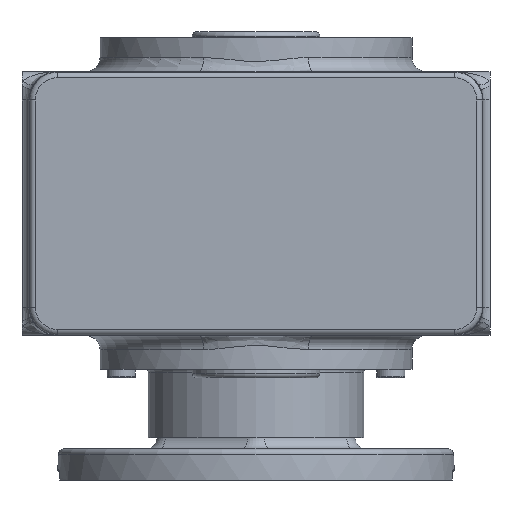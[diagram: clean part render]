
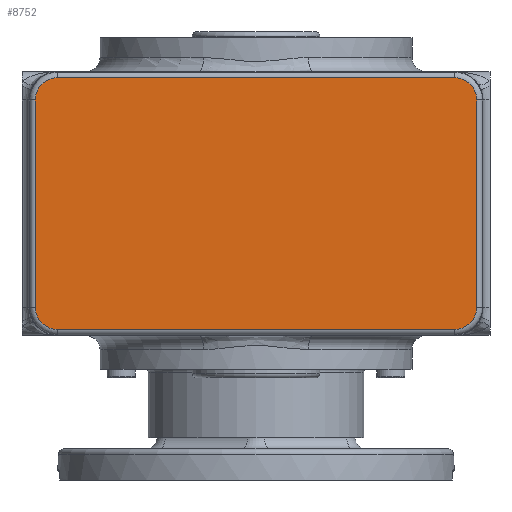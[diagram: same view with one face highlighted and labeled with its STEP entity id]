
A CAD part, front view. The second image highlights one B-rep face of the part: STEP entity #8752.
In plain terms, the highlighted planar face has unit normal (0, -1, 0).
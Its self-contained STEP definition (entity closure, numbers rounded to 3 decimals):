
#8752 = ADVANCED_FACE ( 'NONE', ( #22198 ), #22195, .T. ) ;
#8753 = EDGE_LOOP ( 'NONE', ( #8873, #8791, #8797, #8802, #8808, #8846, #8853, #8857 ) ) ;
#8755 = VERTEX_POINT ( 'NONE', #22260 ) ;
#8789 = VERTEX_POINT ( 'NONE', #22329 ) ;
#8791 = ORIENTED_EDGE ( 'NONE', *, *, #8794, .T. ) ;
#8794 = EDGE_CURVE ( 'NONE', #8789, #8795, #22347, .T. ) ;
#8795 = VERTEX_POINT ( 'NONE', #22342 ) ;
#8797 = ORIENTED_EDGE ( 'NONE', *, *, #8799, .T. ) ;
#8799 = EDGE_CURVE ( 'NONE', #8795, #8800, #22336, .T. ) ;
#8800 = VERTEX_POINT ( 'NONE', #22332 ) ;
#8802 = ORIENTED_EDGE ( 'NONE', *, *, #8805, .T. ) ;
#8805 = EDGE_CURVE ( 'NONE', #8800, #8806, #22434, .T. ) ;
#8806 = VERTEX_POINT ( 'NONE', #22429 ) ;
#8808 = ORIENTED_EDGE ( 'NONE', *, *, #8811, .T. ) ;
#8811 = EDGE_CURVE ( 'NONE', #8806, #8812, #22426, .T. ) ;
#8812 = VERTEX_POINT ( 'NONE', #22416 ) ;
#8846 = ORIENTED_EDGE ( 'NONE', *, *, #8848, .T. ) ;
#8848 = EDGE_CURVE ( 'NONE', #8812, #8850, #22479, .T. ) ;
#8850 = VERTEX_POINT ( 'NONE', #22473 ) ;
#8853 = ORIENTED_EDGE ( 'NONE', *, *, #8854, .T. ) ;
#8854 = EDGE_CURVE ( 'NONE', #8850, #8855, #22539, .T. ) ;
#8855 = VERTEX_POINT ( 'NONE', #22535 ) ;
#8857 = ORIENTED_EDGE ( 'NONE', *, *, #8860, .T. ) ;
#8860 = EDGE_CURVE ( 'NONE', #8855, #8755, #22559, .T. ) ;
#8873 = ORIENTED_EDGE ( 'NONE', *, *, #8875, .T. ) ;
#8875 = EDGE_CURVE ( 'NONE', #8755, #8789, #22593, .T. ) ;
#20690 = DIRECTION ( 'NONE',  ( 0., 0., -1. ) ) ;
#20691 = DIRECTION ( 'NONE',  ( 0., -1., 0. ) ) ;
#22193 = CARTESIAN_POINT ( 'NONE',  ( 70., -74.5, 10. ) ) ;
#22194 = AXIS2_PLACEMENT_3D ( 'NONE', #22193, #20691, #20690 ) ;
#22195 = PLANE ( 'NONE',  #22194 ) ;
#22198 = FACE_OUTER_BOUND ( 'NONE', #8753, .T. ) ;
#22260 = CARTESIAN_POINT ( 'NONE',  ( 77.86, -74.5, 10. ) ) ;
#22329 = CARTESIAN_POINT ( 'NONE',  ( 77.86, -74.5, 83. ) ) ;
#22332 = CARTESIAN_POINT ( 'NONE',  ( -70., -74.5, 90.86 ) ) ;
#22333 = DIRECTION ( 'NONE',  ( -1., 0., 0. ) ) ;
#22334 = VECTOR ( 'NONE', #22333, 1000. ) ;
#22335 = CARTESIAN_POINT ( 'NONE',  ( -70., -74.5, 90.86 ) ) ;
#22336 = LINE ( 'NONE', #22335, #22334 ) ;
#22342 = CARTESIAN_POINT ( 'NONE',  ( 70., -74.5, 90.86 ) ) ;
#22343 = DIRECTION ( 'NONE',  ( 0., 0., -1. ) ) ;
#22344 = DIRECTION ( 'NONE',  ( 0., -1., 0. ) ) ;
#22345 = CARTESIAN_POINT ( 'NONE',  ( 70., -74.5, 83. ) ) ;
#22346 = AXIS2_PLACEMENT_3D ( 'NONE', #22345, #22344, #22343 ) ;
#22347 = CIRCLE ( 'NONE', #22346, 7.86 ) ;
#22416 = CARTESIAN_POINT ( 'NONE',  ( -77.86, -74.5, 10. ) ) ;
#22417 = DIRECTION ( 'NONE',  ( 0., 0., -1. ) ) ;
#22418 = VECTOR ( 'NONE', #22417, 1000. ) ;
#22419 = CARTESIAN_POINT ( 'NONE',  ( -77.86, -74.5, 10. ) ) ;
#22426 = LINE ( 'NONE', #22419, #22418 ) ;
#22429 = CARTESIAN_POINT ( 'NONE',  ( -77.86, -74.5, 83. ) ) ;
#22430 = DIRECTION ( 'NONE',  ( 0., 0., -1. ) ) ;
#22431 = DIRECTION ( 'NONE',  ( 0., -1., 0. ) ) ;
#22432 = CARTESIAN_POINT ( 'NONE',  ( -70., -74.5, 83. ) ) ;
#22433 = AXIS2_PLACEMENT_3D ( 'NONE', #22432, #22431, #22430 ) ;
#22434 = CIRCLE ( 'NONE', #22433, 7.86 ) ;
#22473 = CARTESIAN_POINT ( 'NONE',  ( -70., -74.5, 2.14 ) ) ;
#22475 = DIRECTION ( 'NONE',  ( 0., 0., -1. ) ) ;
#22476 = DIRECTION ( 'NONE',  ( 0., -1., 0. ) ) ;
#22477 = CARTESIAN_POINT ( 'NONE',  ( -70., -74.5, 10. ) ) ;
#22478 = AXIS2_PLACEMENT_3D ( 'NONE', #22477, #22476, #22475 ) ;
#22479 = CIRCLE ( 'NONE', #22478, 7.86 ) ;
#22535 = CARTESIAN_POINT ( 'NONE',  ( 70., -74.5, 2.14 ) ) ;
#22536 = DIRECTION ( 'NONE',  ( 1., 0., 0. ) ) ;
#22537 = VECTOR ( 'NONE', #22536, 1000. ) ;
#22538 = CARTESIAN_POINT ( 'NONE',  ( 70., -74.5, 2.14 ) ) ;
#22539 = LINE ( 'NONE', #22538, #22537 ) ;
#22555 = DIRECTION ( 'NONE',  ( 0., 0., -1. ) ) ;
#22556 = DIRECTION ( 'NONE',  ( 0., -1., 0. ) ) ;
#22557 = CARTESIAN_POINT ( 'NONE',  ( 70., -74.5, 10. ) ) ;
#22558 = AXIS2_PLACEMENT_3D ( 'NONE', #22557, #22556, #22555 ) ;
#22559 = CIRCLE ( 'NONE', #22558, 7.86 ) ;
#22586 = DIRECTION ( 'NONE',  ( 0., 0., 1. ) ) ;
#22587 = VECTOR ( 'NONE', #22586, 1000. ) ;
#22588 = CARTESIAN_POINT ( 'NONE',  ( 77.86, -74.5, 83. ) ) ;
#22593 = LINE ( 'NONE', #22588, #22587 ) ;
